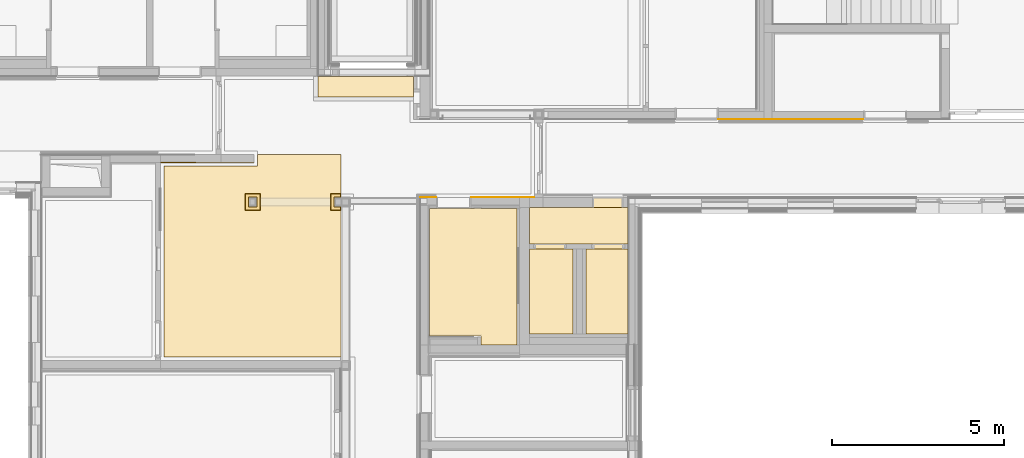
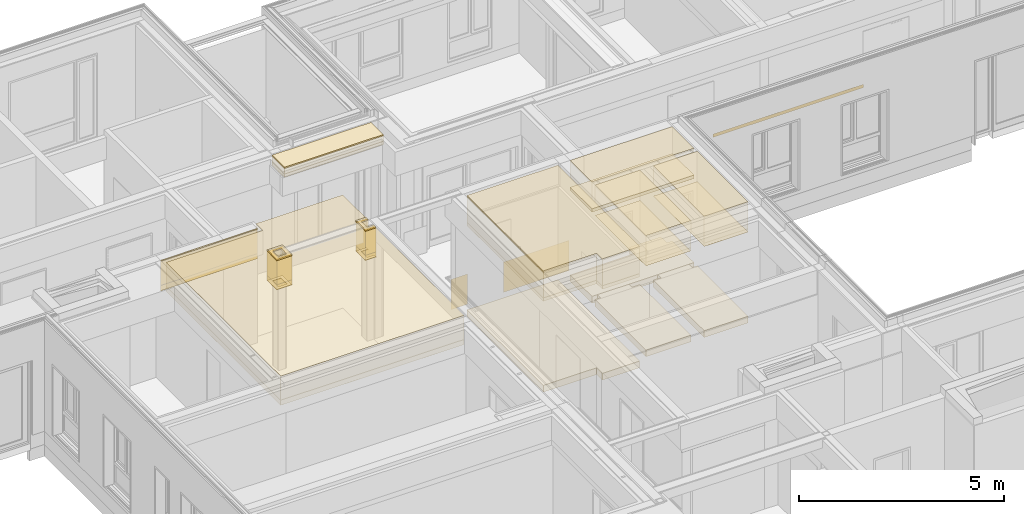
# One storey, part 171 of 207: 33 coverings.
"""IFC4 building model written with IfcOpenShell, lengths in metres."""

import ifcopenshell
import ifcopenshell.guid

model = None  # the IFC model being written
_history = None  # IfcOwnerHistory: only IFC2X3 demands one
_inside = {}  # id of a spatial element -> (the spatial element, [elements in it])
_under = {}  # id of a project, library or spatial element -> (it, [spatial elements below it])
_declared = {}  # id of a project -> (the project, [libraries it declares])
_typed = {}  # id of a type object -> (the type object, [elements of that type])
_made_of = {}  # id of a material, layer set ... -> (it, [elements and type objects made of it])


def new_model(schema):
    """Start an empty IFC model of exactly this schema.

    Asked for "IFC4X3", IfcOpenShell would pick the latest addendum, in which some entities
    have other attributes; the version numbers below select the first issue.
    IFC2X3 requires an IfcOwnerHistory on every rooted entity: one is made here for all.
    """
    global model, _history
    if schema == "IFC4X3":
        model = ifcopenshell.file(schema_version=(4, 3, 0, 0))
    else:
        model = ifcopenshell.file(schema=schema)
    _inside.clear()
    _under.clear()
    _declared.clear()
    _typed.clear()
    _made_of.clear()
    _history = None
    if model.schema == "IFC2X3":
        org = make("IfcOrganization", Name="unknown")
        user = make(
            "IfcPersonAndOrganization",
            ThePerson=make("IfcPerson", FamilyName="unknown"),
            TheOrganization=org,
        )
        app = make(
            "IfcApplication",
            ApplicationDeveloper=org,
            Version="unknown",
            ApplicationFullName="unknown",
            ApplicationIdentifier="unknown",
        )
        _history = make(
            "IfcOwnerHistory",
            OwningUser=user,
            OwningApplication=app,
            ChangeAction="ADDED",
            CreationDate=0,
        )
    return model


def make(cls, **values):
    """One entity of the class cls with the attributes given. An attribute that is None is left unset."""
    return model.create_entity(
        cls, **{name: value for name, value in values.items() if value is not None}
    )


def entity(cls, *values):
    """Any entity or typed value of the class cls, its attributes in the order of the schema. None: left unset."""
    e = model.create_entity(cls)
    for i, value in enumerate(values):
        if value is not None:
            e[i] = value
    return e


def rooted(cls, **values):
    """An entity with a GlobalId (a new one), such as an element, a storey or a relation."""
    return make(cls, GlobalId=ifcopenshell.guid.new(), OwnerHistory=_history, **values)


def si_unit(unit_type, name, prefix=None):
    """IfcSIUnit, for example si_unit("LENGTHUNIT", "METRE", prefix="MILLI")."""
    return make("IfcSIUnit", UnitType=unit_type, Prefix=prefix, Name=name)


def converted_unit(unit_type, name, factor, base, dimensions=None, offset=None):
    """IfcConversionBasedUnit, such as the inch: factor (a typed value) times the base unit."""
    return make(
        "IfcConversionBasedUnit"
        if offset is None
        else "IfcConversionBasedUnitWithOffset",
        ConversionOffset=offset,
        Dimensions=None
        if dimensions is None
        else entity("IfcDimensionalExponents", *dimensions),
        UnitType=unit_type,
        Name=name,
        ConversionFactor=make(
            "IfcMeasureWithUnit", ValueComponent=factor, UnitComponent=base
        ),
    )


def derived_unit(unit_type, elements):
    """IfcDerivedUnit: a product of units, each with its exponent."""
    return make(
        "IfcDerivedUnit",
        Elements=[
            make("IfcDerivedUnitElement", Unit=unit, Exponent=power)
            for unit, power in elements
        ],
        UnitType=unit_type,
    )


def assignment(units):
    """IfcUnitAssignment: the units of a project."""
    return None if units is None else make("IfcUnitAssignment", Units=units)


def point(xyz):
    """IfcCartesianPoint."""
    return None if xyz is None else make("IfcCartesianPoint", Coordinates=xyz)


def direction(xyz):
    """IfcDirection."""
    return None if xyz is None else make("IfcDirection", DirectionRatios=xyz)


def frame(location, z_axis=None, x_axis=None):
    """IfcAxis2Placement3D, a coordinate frame: its origin and axes. An axis left out is left unset."""
    return make(
        "IfcAxis2Placement3D",
        Location=point(location),
        Axis=direction(z_axis),
        RefDirection=direction(x_axis),
    )


def frame_2d(location, x_axis=None):
    """IfcAxis2Placement2D, a coordinate frame in the plane: its origin and x axis."""
    return make(
        "IfcAxis2Placement2D", Location=point(location), RefDirection=direction(x_axis)
    )


def origin():
    """The frame at (0, 0, 0) with its axes left unset."""
    return frame((0.0, 0.0, 0.0))


def origin_with_axes():
    """The frame at (0, 0, 0) with the z axis (0, 0, 1) and the x axis (1, 0, 0) written out."""
    return frame((0.0, 0.0, 0.0), z_axis=(0.0, 0.0, 1.0), x_axis=(1.0, 0.0, 0.0))


def place(relative_to, where):
    """IfcLocalPlacement: puts the frame where relative to a parent placement (None: the world)."""
    return make(
        "IfcLocalPlacement", PlacementRelTo=relative_to, RelativePlacement=where
    )


def context(
    kind, dimensions, precision=None, world=None, true_north=None, identifier=None
):
    """IfcGeometricRepresentationContext, for example the 3D "Model" context."""
    return make(
        "IfcGeometricRepresentationContext",
        ContextIdentifier=identifier,
        ContextType=kind,
        CoordinateSpaceDimension=dimensions,
        Precision=precision,
        WorldCoordinateSystem=world,
        TrueNorth=true_north,
    )


def subcontext(parent, identifier, kind, view, scale=None):
    """IfcGeometricRepresentationSubContext, for example "Body" below "Model"."""
    return make(
        "IfcGeometricRepresentationSubContext",
        ContextIdentifier=identifier,
        ContextType=kind,
        ParentContext=parent,
        TargetScale=scale,
        TargetView=view,
    )


def project(units=None, contexts=None):
    """IfcProject with its units and contexts."""
    return rooted(
        "IfcProject",
        Name="project",
        RepresentationContexts=contexts,
        UnitsInContext=assignment(units),
    )


def spatial(cls, under=None, at=None, **own):
    """A site, building, storey or space (cls), placed at a placement, below another one or the project."""
    s = rooted(cls, ObjectPlacement=at, **own)
    if under is not None:
        _under.setdefault(under.id(), (under, []))[1].append(s)
    return s


def polyline(points):
    """IfcPolyline through the points."""
    return make("IfcPolyline", Points=[point(p) for p in points])


def profile(cls, at=None, kind="AREA", **sizes):
    """A parametric profile (cls). Its sizes go by their IFC names, for example OverallWidth=200.0."""
    return make(cls, ProfileType=kind, Position=at, **sizes)


def rectangle(**sizes):
    """IfcRectangleProfileDef."""
    return profile("IfcRectangleProfileDef", **sizes)


def outline(outer, holes=None, kind="AREA"):
    """IfcArbitraryClosedProfileDef: a profile drawn as a closed curve; with holes, ...WithVoids."""
    if holes is None:
        return make("IfcArbitraryClosedProfileDef", ProfileType=kind, OuterCurve=outer)
    return make(
        "IfcArbitraryProfileDefWithVoids",
        ProfileType=kind,
        OuterCurve=outer,
        InnerCurves=holes,
    )


def extrude(swept, where, along, depth):
    """IfcExtrudedAreaSolid: the profile swept, set in the frame where, extruded along a direction by depth."""
    return make(
        "IfcExtrudedAreaSolid",
        SweptArea=swept,
        Position=where,
        ExtrudedDirection=direction(along),
        Depth=depth,
    )


def shape(context_of_items, identifier, shape_type, items):
    """IfcShapeRepresentation: the items that make up one representation, for example the "Body"."""
    return make(
        "IfcShapeRepresentation",
        ContextOfItems=context_of_items,
        RepresentationIdentifier=identifier,
        RepresentationType=shape_type,
        Items=items,
    )


def material(Name=None, Category=None):
    """IfcMaterial."""
    return make("IfcMaterial", Name=Name, Category=Category)


def layer(
    of_material, thickness, ventilated=None, Name=None, Category=None, Priority=None
):
    """IfcMaterialLayer: one layer of a wall or slab, of a material (None: an air gap)."""
    return make(
        "IfcMaterialLayer",
        Material=of_material,
        LayerThickness=thickness,
        IsVentilated=ventilated,
        Name=Name,
        Category=Category,
        Priority=Priority,
    )


def layer_set(layers, Name=None):
    """IfcMaterialLayerSet."""
    return make("IfcMaterialLayerSet", MaterialLayers=layers, LayerSetName=Name)


def layer_usage(for_layer_set, set_direction, sense, offset, extent=None):
    """IfcMaterialLayerSetUsage: how a layer set lies in its element."""
    return make(
        "IfcMaterialLayerSetUsage",
        ForLayerSet=for_layer_set,
        LayerSetDirection=set_direction,
        DirectionSense=sense,
        OffsetFromReferenceLine=offset,
        ReferenceExtent=extent,
    )


def made_of(thing, what):
    """Note that an element or type object is made of a material, layer set ...; save() writes the relation."""
    if what is not None:
        _made_of.setdefault(what.id(), (what, []))[1].append(thing)
    return thing


def element(
    cls,
    number,
    at=None,
    inside=None,
    cuts=None,
    type_object=None,
    material=None,
    context=None,
    identifier="Body",
    shape_type=None,
    held_by="IfcProductDefinitionShape",
    body=None,
    shapes=None,
    **own,
):
    """One element of the class cls, such as IfcWall. Its Tag is "e" and its number.

    at: its placement. inside: the storey or other place that contains it. cuts: it is an
    opening in that element (IfcRelVoidsElement). A single representation is given by context,
    identifier, shape_type and body (its items); several are given by shapes. held_by: the class
    of the entity that holds the representations. save() writes the other relations.
    """
    e = rooted(cls, Tag="e%d" % number, ObjectPlacement=at, **own)
    if body is not None:
        shapes = [shape(context, identifier, shape_type, body)]
    if shapes is not None:
        e.Representation = make(held_by, Representations=shapes)
    if inside is not None:
        _inside.setdefault(inside.id(), (inside, []))[1].append(e)
    if cuts is not None:
        rooted(
            "IfcRelVoidsElement", RelatingBuildingElement=cuts, RelatedOpeningElement=e
        )
    if type_object is not None:
        _typed.setdefault(type_object.id(), (type_object, []))[1].append(e)
    return made_of(e, material)


def aggregate(whole, parts):
    """IfcRelAggregates: a whole, such as a stair, and the parts it consists of."""
    return rooted("IfcRelAggregates", RelatingObject=whole, RelatedObjects=parts)


def save(model, path):
    """Write the relations noted so far, then the file.

    IfcRelAggregates (storeys below a building ...), IfcRelContainedInSpatialStructure (elements
    in a storey), IfcRelDefinesByType, IfcRelAssociatesMaterial and IfcRelDeclares: one each for
    every whole, place, type object, material and project.
    """
    for whole, parts in _under.values():
        aggregate(whole, parts)
    for where, things in _inside.values():
        rooted(
            "IfcRelContainedInSpatialStructure",
            RelatedElements=things,
            RelatingStructure=where,
        )
    for kind, things in _typed.values():
        rooted("IfcRelDefinesByType", RelatedObjects=things, RelatingType=kind)
    for what, things in _made_of.values():
        rooted("IfcRelAssociatesMaterial", RelatedObjects=things, RelatingMaterial=what)
    for by, libraries in _declared.values():
        rooted("IfcRelDeclares", RelatingContext=by, RelatedDefinitions=libraries)
    model.write(path)


model = new_model("IFC4")

# Units and contexts
model_context = context("Model", 3, precision=1e-05, world=origin())
body_context = subcontext(model_context, "Body", "Model", "MODEL_VIEW")
ifc_project = project(units=[si_unit("LENGTHUNIT", "METRE"), si_unit("AREAUNIT", "SQUARE_METRE"), si_unit("VOLUMEUNIT", "CUBIC_METRE"), si_unit("MASSUNIT", "GRAM", prefix="KILO"), converted_unit("PLANEANGLEUNIT", "DEGREE", entity("IfcPlaneAngleMeasure", 0.0174532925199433), si_unit("PLANEANGLEUNIT", "RADIAN"), dimensions=[0, 0, 0, 0, 0, 0, 0]), derived_unit("THERMALTRANSMITTANCEUNIT", [(si_unit("POWERUNIT", "WATT"), 1), (si_unit("THERMODYNAMICTEMPERATUREUNIT", "KELVIN"), -1), (si_unit("LENGTHUNIT", "METRE"), -2)]), derived_unit("VOLUMETRICFLOWRATEUNIT", [(si_unit("LENGTHUNIT", "METRE"), 3), (converted_unit("TIMEUNIT", "hour", entity("IfcTimeMeasure", 3600.0), si_unit("TIMEUNIT", "SECOND"), dimensions=[0, 0, 1, 0, 0, 0, 0]), -1), (si_unit("LENGTHUNIT", "METRE"), -1)])], contexts=[model_context])

# Site, building, storey, space
site_placement = place(None, origin())
site = spatial("IfcSite", under=ifc_project, at=site_placement, Name="Psychiatrie Neubau Wunstorf", CompositionType="ELEMENT")
building_placement = place(site_placement, origin())
building = spatial("IfcBuilding", under=site, at=building_placement, Name="Neubau H2 Stationsgebäude", CompositionType="ELEMENT")
storey_placement = place(building_placement, frame((0.0, 0.0, -0.2)))
storey = spatial("IfcBuildingStorey", under=building, at=storey_placement, Name="H2 Ebene 0", CompositionType="ELEMENT", Elevation=-0.2)
space_1_placement = place(storey_placement, frame((41.4405, 20.5859970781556, 0.0)))
space_1 = spatial("IfcSpace", under=storey, at=space_1_placement, Name="WUN-H2-E00-F08", CompositionType="ELEMENT")

# Covering
ifc_material_1 = material(Name="97")
ifc_layer_1 = layer(ifc_material_1, 0.001)
ifc_layer_set_1 = layer_set([ifc_layer_1])
ifc_layer_usage_1 = layer_usage(ifc_layer_set_1, "AXIS3", "POSITIVE", 0.0)
covering_1_placement = place(space_1_placement, frame((5.12450000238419, 2.27800291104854, 0.8)))
element("IfcCovering", 1, at=covering_1_placement, inside=space_1, material=ifc_layer_usage_1, Name="Handlauf", PredefinedType="CLADDING", context=body_context, shape_type="SweptSolid", body=[
    extrude(rectangle(XDim=4.22499999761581, YDim=0.1, at=frame_2d((-2.11249999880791, 0.05), x_axis=(-1.0, 0.0))), frame((0.0, 0.0, 0.1), z_axis=(-7.61630022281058e-10, -1.0, 0.0), x_axis=(-1.0, 7.61630022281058e-10, 0.0)), (0.0, 0.0, 1.0), 0.001),
])

# Space
space_2_placement = place(storey_placement, frame((32.083, 0.549, 0.0)))
space_2 = spatial("IfcSpace", under=storey, at=space_2_placement, Name="WUN-H2-E00-F03", CompositionType="ELEMENT")

# Coverings
ifc_material_2 = material(Name="84")
ifc_layer_2 = layer(ifc_material_2, 0.001)
ifc_layer_set_2 = layer_set([ifc_layer_2])
ifc_layer_usage_2 = layer_usage(ifc_layer_set_2, "AXIS3", "POSITIVE", 0.0)
covering_2_placement = place(space_2_placement, frame((5.79949999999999, 20.0369980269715, 0.1)))
element("IfcCovering", 2, at=covering_2_placement, inside=space_2, material=ifc_layer_usage_2, Name="Acrobyn", PredefinedType="CLADDING", context=body_context, shape_type="SweptSolid", body=[
    extrude(rectangle(XDim=1.84799999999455, YDim=0.9, at=frame_2d((-0.923999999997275, 0.45), x_axis=(-1.0, 0.0))), frame((3.325500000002, 0.0, 0.9), z_axis=(-4.98056622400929e-13, 1.0, 0.0), x_axis=(1.0, 4.98056622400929e-13, 0.0)), (0.0, 0.0, 1.0), 0.001),
    extrude(rectangle(XDim=0.9, YDim=0.467500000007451, at=frame_2d((-0.233750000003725, -0.45), x_axis=(0.0, -1.0))), frame((0.467500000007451, 0.0, 0.0), z_axis=(-4.98033462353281e-13, 1.0, 0.0), x_axis=(1.0, 4.98033462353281e-13, 0.0)), (0.0, 0.0, 1.0), 0.001),
])
ifc_material_3 = material()
ifc_layer_3 = layer(ifc_material_3, 0.036)
ifc_layer_set_3 = layer_set([ifc_layer_3])
ifc_layer_usage_3 = layer_usage(ifc_layer_set_3, "AXIS3", "POSITIVE", 0.0)
covering_3_placement = place(space_2_placement, frame((2.81699999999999, 22.966, 3.6)))
element("IfcCovering", 3, at=covering_3_placement, inside=space_2, material=ifc_layer_usage_3, Name="Gipsfaserplatten 2-lagig (BSK)", PredefinedType="CEILING", context=body_context, shape_type="SweptSolid", body=[
    extrude(rectangle(XDim=2.779, YDim=0.5990036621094, at=frame_2d((-1.3895, -0.2995018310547), x_axis=(-1.0, 0.0))), frame((2.779, 0.0, 0.0), z_axis=(0.0, 0.0, -1.0), x_axis=(1.0, 0.0, 0.0)), (0.0, 0.0, 1.0), 0.036),
])
ifc_material_4 = material(Name="Installationshöhe")
ifc_layer_4 = layer(ifc_material_4, 0.164)
ifc_layer_set_4 = layer_set([ifc_layer_4])
ifc_layer_usage_4 = layer_usage(ifc_layer_set_4, "AXIS3", "POSITIVE", 0.0)
covering_4_placement = place(space_2_placement, frame((2.81699999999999, 22.966, 3.564)))
element("IfcCovering", 4, at=covering_4_placement, inside=space_2, material=ifc_layer_usage_4, Name="Gipsfaserplatten 2-lagig (BSK)", PredefinedType="CEILING", context=body_context, shape_type="SweptSolid", body=[
    extrude(rectangle(XDim=2.779, YDim=0.5990036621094, at=frame_2d((-1.3895, -0.2995018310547), x_axis=(-1.0, 0.0))), frame((2.779, 0.0, 0.0), z_axis=(0.0, 0.0, -1.0), x_axis=(1.0, 0.0, 0.0)), (0.0, 0.0, 1.0), 0.164),
])
ifc_material_5 = material(Name="A1")
ifc_layer_5 = layer(ifc_material_5, 0.1)
ifc_layer_set_5 = layer_set([ifc_layer_5])
ifc_layer_usage_5 = layer_usage(ifc_layer_set_5, "AXIS3", "POSITIVE", 0.0)
covering_5_placement = place(space_2_placement, frame((2.81699999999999, 22.966, 3.4)))
element("IfcCovering", 5, at=covering_5_placement, inside=space_2, material=ifc_layer_usage_5, Name="Gipsfaserplatten 2-lagig (BSK)", PredefinedType="CEILING", context=body_context, shape_type="SweptSolid", body=[
    extrude(rectangle(XDim=2.779, YDim=0.5990036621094, at=frame_2d((-1.3895, -0.2995018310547), x_axis=(-1.0, 0.0))), frame((2.779, 0.0, 0.0), z_axis=(0.0, 0.0, -1.0), x_axis=(1.0, 0.0, 0.0)), (0.0, 0.0, 1.0), 0.1),
])
ifc_material_6 = material(Name="D1")
ifc_layer_6 = layer(ifc_material_6, 0.001)
ifc_layer_set_6 = layer_set([ifc_layer_6])
ifc_layer_usage_6 = layer_usage(ifc_layer_set_6, "AXIS3", "POSITIVE", 0.0)
covering_6_placement = place(space_2_placement, frame((2.81699999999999, 22.966, 3.3)))
element("IfcCovering", 6, at=covering_6_placement, inside=space_2, material=ifc_layer_usage_6, Name="Gipsfaserplatten 2-lagig (BSK)", PredefinedType="CEILING", context=body_context, shape_type="SweptSolid", body=[
    extrude(rectangle(XDim=2.779, YDim=0.5990036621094, at=frame_2d((-1.3895, -0.2995018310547), x_axis=(-1.0, 0.0))), frame((2.779, 0.0, 0.0), z_axis=(0.0, 0.0, -1.0), x_axis=(1.0, 0.0, 0.0)), (0.0, 0.0, 1.0), 0.001),
])

# Space
space_3_placement = place(storey_placement, frame((30.3168490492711, 15.8324990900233, 0.0)))
space_3 = spatial("IfcSpace", under=storey, at=space_3_placement, Name="WUN-H2-E00-F03a", CompositionType="ELEMENT")

# Coverings
ifc_material_7 = material()
ifc_layer_7 = layer(ifc_material_7, 0.036)
ifc_layer_set_7 = layer_set([ifc_layer_7])
ifc_layer_usage_7 = layer_usage(ifc_layer_set_7, "AXIS3", "POSITIVE", 0.0)
covering_7_placement = place(space_3_placement, frame((0.0, 4.38748945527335, 3.6)))
element("IfcCovering", 7, at=covering_7_placement, inside=space_3, material=ifc_layer_usage_7, Name="Gipsfaserplatten 2-lagig (BSK)", PredefinedType="CEILING", context=body_context, shape_type="SweptSolid", body=[
    extrude(outline(polyline([(0.432000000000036, 0.471998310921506), (0.0, 0.471998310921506), (0.0, 0.0), (0.432000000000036, 0.0), (0.432000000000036, 0.471998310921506)]), holes=[polyline([(0.1, 0.0999983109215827), (0.1, 0.371998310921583), (0.332000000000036, 0.371998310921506), (0.332000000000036, 0.0999983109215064), (0.1, 0.0999983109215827)])]), frame((2.46614655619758, 0.471998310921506, 0.0), z_axis=(0.0, 0.0, -1.0), x_axis=(1.0, 0.0, 0.0)), (0.0, 0.0, 1.0), 0.036),
    extrude(outline(polyline([(0.0, 0.0), (0.296000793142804, 0.0), (0.296000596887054, 0.100000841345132), (0.100000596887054, 0.100000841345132), (0.100000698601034, 0.37199959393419), (0.296003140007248, 0.372001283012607), (0.296003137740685, 0.47199959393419), (6.98601033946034e-07, 0.47199959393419), (0.0, 0.0)])), frame((4.95714791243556, 0.472009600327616, 0.0), z_axis=(0.0, 0.0, -1.0), x_axis=(1.0, 0.0, 0.0)), (0.0, 0.0, 1.0), 0.036),
    extrude(outline(polyline([(0.0, 0.0015), (0.0, 0.0), (2.71615095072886, 0.00149999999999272), (0.0, 0.0015)])), frame((0.0, 1.38551145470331, 0.0), z_axis=(0.0, 0.0, -1.0), x_axis=(1.0, 0.0, 0.0)), (0.0, 0.0, 1.0), 0.036),
])
ifc_material_8 = material(Name="Installationshöhe")
ifc_layer_8 = layer(ifc_material_8, 0.714)
ifc_layer_set_8 = layer_set([ifc_layer_8])
ifc_layer_usage_8 = layer_usage(ifc_layer_set_8, "AXIS3", "POSITIVE", 0.0)
covering_8_placement = place(space_3_placement, frame((0.0, 4.38748945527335, 3.564)))
element("IfcCovering", 8, at=covering_8_placement, inside=space_3, material=ifc_layer_usage_8, Name="Gipsfaserplatten 2-lagig (BSK)", PredefinedType="CEILING", context=body_context, shape_type="SweptSolid", body=[
    extrude(outline(polyline([(0.432000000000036, 0.471998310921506), (0.0, 0.471998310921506), (0.0, 0.0), (0.432000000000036, 0.0), (0.432000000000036, 0.471998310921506)]), holes=[polyline([(0.1, 0.0999983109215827), (0.1, 0.371998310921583), (0.332000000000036, 0.371998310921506), (0.332000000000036, 0.0999983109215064), (0.1, 0.0999983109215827)])]), frame((2.46614655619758, 0.471998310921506, 0.0), z_axis=(0.0, 0.0, -1.0), x_axis=(1.0, 0.0, 0.0)), (0.0, 0.0, 1.0), 0.714),
    extrude(outline(polyline([(0.0, 0.0), (0.296000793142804, 0.0), (0.296000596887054, 0.100000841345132), (0.100000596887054, 0.100000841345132), (0.100000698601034, 0.37199959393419), (0.296003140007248, 0.372001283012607), (0.296003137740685, 0.47199959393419), (6.98601033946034e-07, 0.47199959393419), (0.0, 0.0)])), frame((4.95714791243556, 0.472009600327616, 0.0), z_axis=(0.0, 0.0, -1.0), x_axis=(1.0, 0.0, 0.0)), (0.0, 0.0, 1.0), 0.714),
    extrude(outline(polyline([(0.0, 0.0015), (0.0, 0.0), (2.71615095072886, 0.00149999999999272), (0.0, 0.0015)])), frame((0.0, 1.38551145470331, 0.0), z_axis=(0.0, 0.0, -1.0), x_axis=(1.0, 0.0, 0.0)), (0.0, 0.0, 1.0), 0.714),
])
ifc_material_9 = material(Name="A1")
ifc_layer_9 = layer(ifc_material_9, 0.15)
ifc_layer_set_9 = layer_set([ifc_layer_9])
ifc_layer_usage_9 = layer_usage(ifc_layer_set_9, "AXIS3", "POSITIVE", 0.0)
covering_9_placement = place(space_3_placement, frame((0.0, 4.38748945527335, 2.85)))
element("IfcCovering", 9, at=covering_9_placement, inside=space_3, material=ifc_layer_usage_9, Name="Gipsfaserplatten 2-lagig (BSK)", PredefinedType="CEILING", context=body_context, shape_type="SweptSolid", body=[
    extrude(outline(polyline([(0.432000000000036, 0.471998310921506), (0.0, 0.471998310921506), (0.0, 0.0), (0.432000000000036, 0.0), (0.432000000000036, 0.471998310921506)]), holes=[polyline([(0.1, 0.0999983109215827), (0.1, 0.371998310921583), (0.332000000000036, 0.371998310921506), (0.332000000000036, 0.0999983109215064), (0.1, 0.0999983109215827)])]), frame((2.46614655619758, 0.471998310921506, 0.0), z_axis=(0.0, 0.0, -1.0), x_axis=(1.0, 0.0, 0.0)), (0.0, 0.0, 1.0), 0.15),
    extrude(outline(polyline([(0.0, 0.0), (0.296000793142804, 0.0), (0.296000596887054, 0.100000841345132), (0.100000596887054, 0.100000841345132), (0.100000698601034, 0.37199959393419), (0.296003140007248, 0.372001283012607), (0.296003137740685, 0.47199959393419), (6.98601033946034e-07, 0.47199959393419), (0.0, 0.0)])), frame((4.95714791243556, 0.472009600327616, 0.0), z_axis=(0.0, 0.0, -1.0), x_axis=(1.0, 0.0, 0.0)), (0.0, 0.0, 1.0), 0.15),
    extrude(outline(polyline([(0.0, 0.0015), (0.0, 0.0), (2.71615095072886, 0.00149999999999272), (0.0, 0.0015)])), frame((0.0, 1.38551145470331, 0.0), z_axis=(0.0, 0.0, -1.0), x_axis=(1.0, 0.0, 0.0)), (0.0, 0.0, 1.0), 0.15),
])
ifc_material_10 = material(Name="D1")
ifc_layer_10 = layer(ifc_material_10, 0.001)
ifc_layer_set_10 = layer_set([ifc_layer_10])
ifc_layer_usage_10 = layer_usage(ifc_layer_set_10, "AXIS3", "POSITIVE", 0.0)
covering_10_placement = place(space_3_placement, frame((0.0, 4.38748945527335, 2.7)))
element("IfcCovering", 10, at=covering_10_placement, inside=space_3, material=ifc_layer_usage_10, Name="Gipsfaserplatten 2-lagig (BSK)", PredefinedType="CEILING", context=body_context, shape_type="SweptSolid", body=[
    extrude(outline(polyline([(0.432000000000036, 0.471998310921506), (0.0, 0.471998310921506), (0.0, 0.0), (0.432000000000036, 0.0), (0.432000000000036, 0.471998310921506)]), holes=[polyline([(0.1, 0.0999983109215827), (0.1, 0.371998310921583), (0.332000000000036, 0.371998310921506), (0.332000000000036, 0.0999983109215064), (0.1, 0.0999983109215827)])]), frame((2.46614655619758, 0.471998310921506, 0.0), z_axis=(0.0, 0.0, -1.0), x_axis=(1.0, 0.0, 0.0)), (0.0, 0.0, 1.0), 0.001),
    extrude(outline(polyline([(0.0, 0.0), (0.296000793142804, 0.0), (0.296000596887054, 0.100000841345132), (0.100000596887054, 0.100000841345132), (0.100000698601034, 0.37199959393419), (0.296003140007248, 0.372001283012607), (0.296003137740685, 0.47199959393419), (6.98601033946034e-07, 0.47199959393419), (0.0, 0.0)])), frame((4.95714791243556, 0.472009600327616, 0.0), z_axis=(0.0, 0.0, -1.0), x_axis=(1.0, 0.0, 0.0)), (0.0, 0.0, 1.0), 0.001),
    extrude(outline(polyline([(0.0, 0.0015), (0.0, 0.0), (2.71615095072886, 0.00149999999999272), (0.0, 0.0015)])), frame((0.0, 1.38551145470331, 0.0), z_axis=(0.0, 0.0, -1.0), x_axis=(1.0, 0.0, 0.0)), (0.0, 0.0, 1.0), 0.001),
])
ifc_material_11 = material(Name="Installationshöhe")
ifc_layer_11 = layer(ifc_material_11, 0.714)
ifc_layer_set_11 = layer_set([ifc_layer_11])
ifc_layer_usage_11 = layer_usage(ifc_layer_set_11, "AXIS3", "POSITIVE", 0.0)
covering_11_placement = place(space_3_placement, frame((0.0999999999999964, 0.100000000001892, 3.564)))
element("IfcCovering", 11, at=covering_11_placement, inside=space_3, material=ifc_layer_usage_11, Name="Gipsfaserplatten 2-lagig (BSK)", PredefinedType="CEILING", context=body_context, shape_type="SweptSolid", body=[
    extrude(outline(polyline([(5.15315105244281, 1.61600144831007), (5.15315095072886, 5.90350090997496), (0.0, 5.90350090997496), (0.0, 0.330016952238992), (2.71615095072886, 0.330016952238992), (2.71615095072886, 0.0), (5.15315095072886, 0.0), (5.15315035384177, 1.14400185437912), (4.85714791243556, 1.14400185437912), (4.8571486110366, 1.61600144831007), (5.15315105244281, 1.61600144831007)]), holes=[polyline([(2.36614655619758, 1.6160114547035), (2.79814655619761, 1.6160114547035), (2.79814655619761, 1.14401314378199), (2.36614655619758, 1.14401314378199), (2.36614655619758, 1.6160114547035)])]), frame((0.0, 5.90350090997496, 0.0), z_axis=(0.0, 0.0, -1.0), x_axis=(1.0, 0.0, 0.0)), (0.0, 0.0, 1.0), 0.714),
])
ifc_material_12 = material(Name="Aa")
ifc_layer_12 = layer(ifc_material_12, 0.15)
ifc_layer_set_12 = layer_set([ifc_layer_12])
ifc_layer_usage_12 = layer_usage(ifc_layer_set_12, "AXIS3", "POSITIVE", 0.0)
covering_12_placement = place(space_3_placement, frame((0.0999999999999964, 0.100000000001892, 2.85)))
element("IfcCovering", 12, at=covering_12_placement, inside=space_3, material=ifc_layer_usage_12, Name="Gipsfaserplatten 2-lagig (BSK)", PredefinedType="CEILING", context=body_context, shape_type="SweptSolid", body=[
    extrude(outline(polyline([(5.15315105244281, 1.61600144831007), (5.15315095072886, 5.90350090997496), (0.0, 5.90350090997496), (0.0, 0.330016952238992), (2.71615095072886, 0.330016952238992), (2.71615095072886, 0.0), (5.15315095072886, 0.0), (5.15315035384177, 1.14400185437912), (4.85714791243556, 1.14400185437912), (4.8571486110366, 1.61600144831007), (5.15315105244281, 1.61600144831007)]), holes=[polyline([(2.36614655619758, 1.6160114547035), (2.79814655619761, 1.6160114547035), (2.79814655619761, 1.14401314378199), (2.36614655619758, 1.14401314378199), (2.36614655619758, 1.6160114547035)])]), frame((0.0, 5.90350090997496, 0.0), z_axis=(0.0, 0.0, -1.0), x_axis=(1.0, 0.0, 0.0)), (0.0, 0.0, 1.0), 0.15),
])
ifc_material_13 = material(Name="D1")
ifc_layer_13 = layer(ifc_material_13, 0.001)
ifc_layer_set_13 = layer_set([ifc_layer_13])
ifc_layer_usage_13 = layer_usage(ifc_layer_set_13, "AXIS3", "POSITIVE", 0.0)
covering_13_placement = place(space_3_placement, frame((0.0999999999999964, 0.100000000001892, 2.7)))
element("IfcCovering", 13, at=covering_13_placement, inside=space_3, material=ifc_layer_usage_13, Name="Gipsfaserplatten 2-lagig (BSK)", PredefinedType="CEILING", context=body_context, shape_type="SweptSolid", body=[
    extrude(outline(polyline([(5.15315105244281, 1.61600144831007), (5.15315095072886, 5.90350090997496), (0.0, 5.90350090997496), (0.0, 0.330016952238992), (2.71615095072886, 0.330016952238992), (2.71615095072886, 0.0), (5.15315095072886, 0.0), (5.15315035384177, 1.14400185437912), (4.85714791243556, 1.14400185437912), (4.8571486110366, 1.61600144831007), (5.15315105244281, 1.61600144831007)]), holes=[polyline([(2.36614655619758, 1.6160114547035), (2.79814655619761, 1.6160114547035), (2.79814655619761, 1.14401314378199), (2.36614655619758, 1.14401314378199), (2.36614655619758, 1.6160114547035)])]), frame((0.0, 5.90350090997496, 0.0), z_axis=(0.0, 0.0, -1.0), x_axis=(1.0, 0.0, 0.0)), (0.0, 0.0, 1.0), 0.001),
])

# Space
space_4_placement = place(storey_placement, frame((38.154, 16.2820060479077, 0.0)))
space_4 = spatial("IfcSpace", under=storey, at=space_4_placement, Name="WUN-H2-E00-009", CompositionType="ELEMENT")

# Coverings
ifc_material_14 = material(Name="Ku1")
ifc_layer_14 = layer(ifc_material_14, 0.2)
ifc_layer_set_14 = layer_set([ifc_layer_14])
ifc_layer_usage_14 = layer_usage(ifc_layer_set_14, "AXIS3", "POSITIVE", 0.0)
covering_14_placement = place(space_4_placement, origin())
element("IfcCovering", 14, at=covering_14_placement, inside=space_4, material=ifc_layer_usage_14, Name="PVC Bahnenware Holzoptik", PredefinedType="FLOORING", context=body_context, shape_type="SweptSolid", body=[
    extrude(outline(polyline([(1.5, 0.0), (2.55000000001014, 0.0), (2.55000000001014, 3.98249197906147), (0.0, 3.98249197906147), (0.0, 0.275), (1.5, 0.275), (1.5, 0.0)])), origin_with_axes(), (0.0, 0.0, 1.0), 0.2),
])
ifc_material_15 = material()
ifc_layer_15 = layer(ifc_material_15, 0.036)
ifc_layer_set_15 = layer_set([ifc_layer_15])
ifc_layer_usage_15 = layer_usage(ifc_layer_set_15, "AXIS3", "POSITIVE", 0.0)
covering_15_placement = place(space_4_placement, frame((0.0, 0.0, 3.6)))
element("IfcCovering", 15, at=covering_15_placement, inside=space_4, material=ifc_layer_usage_15, Name="Gipsfaserplatten 2-lagig (BSK)", PredefinedType="CEILING", context=body_context, shape_type="SweptSolid", body=[
    extrude(outline(polyline([(2.55000000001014, 3.98249197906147), (1.5, 3.98249197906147), (1.5, 3.70749197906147), (0.0, 3.70749197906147), (0.0, 0.0), (2.55000000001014, 0.0), (2.55000000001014, 3.98249197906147)])), frame((0.0, 3.98249197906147, 0.0), z_axis=(0.0, 0.0, -1.0), x_axis=(1.0, 0.0, 0.0)), (0.0, 0.0, 1.0), 0.036),
])
ifc_material_16 = material(Name="Installationshöhe")
ifc_layer_16 = layer(ifc_material_16, 0.764)
ifc_layer_set_16 = layer_set([ifc_layer_16])
ifc_layer_usage_16 = layer_usage(ifc_layer_set_16, "AXIS3", "POSITIVE", 0.0)
covering_16_placement = place(space_4_placement, frame((0.0, 0.0, 3.564)))
element("IfcCovering", 16, at=covering_16_placement, inside=space_4, material=ifc_layer_usage_16, Name="Gipsfaserplatten 2-lagig (BSK)", PredefinedType="CEILING", context=body_context, shape_type="SweptSolid", body=[
    extrude(outline(polyline([(2.55000000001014, 3.98249197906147), (1.5, 3.98249197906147), (1.5, 3.70749197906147), (0.0, 3.70749197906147), (0.0, 0.0), (2.55000000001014, 0.0), (2.55000000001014, 3.98249197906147)])), frame((0.0, 3.98249197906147, 0.0), z_axis=(0.0, 0.0, -1.0), x_axis=(1.0, 0.0, 0.0)), (0.0, 0.0, 1.0), 0.764),
])
ifc_material_17 = material(Name="H7a")
ifc_layer_17 = layer(ifc_material_17, 0.1)
ifc_layer_set_17 = layer_set([ifc_layer_17])
ifc_layer_usage_17 = layer_usage(ifc_layer_set_17, "AXIS3", "POSITIVE", 0.0)
covering_17_placement = place(space_4_placement, frame((0.0, 0.0, 2.8)))
element("IfcCovering", 17, at=covering_17_placement, inside=space_4, material=ifc_layer_usage_17, Name="Kühldecke glatt", PredefinedType="CEILING", context=body_context, shape_type="SweptSolid", body=[
    extrude(outline(polyline([(2.55000000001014, 3.98249197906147), (1.5, 3.98249197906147), (1.5, 3.70749197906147), (0.0, 3.70749197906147), (0.0, 0.0), (2.55000000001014, 0.0), (2.55000000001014, 3.98249197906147)])), frame((0.0, 3.98249197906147, 0.0), z_axis=(0.0, 0.0, -1.0), x_axis=(1.0, 0.0, 0.0)), (0.0, 0.0, 1.0), 0.1),
])
ifc_material_18 = material(Name="D1")
ifc_layer_18 = layer(ifc_material_18, 0.001)
ifc_layer_set_18 = layer_set([ifc_layer_18])
ifc_layer_usage_18 = layer_usage(ifc_layer_set_18, "AXIS3", "POSITIVE", 0.0)
covering_18_placement = place(space_4_placement, frame((0.0, 0.0, 2.7)))
element("IfcCovering", 18, at=covering_18_placement, inside=space_4, material=ifc_layer_usage_18, Name="Gipsfaserplatten 2-lagig (BSK)", PredefinedType="CEILING", context=body_context, shape_type="SweptSolid", body=[
    extrude(outline(polyline([(2.55000000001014, 3.98249197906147), (1.5, 3.98249197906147), (1.5, 3.70749197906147), (0.0, 3.70749197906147), (0.0, 0.0), (2.55000000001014, 0.0), (2.55000000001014, 3.98249197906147)])), frame((0.0, 3.98249197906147, 0.0), z_axis=(0.0, 0.0, -1.0), x_axis=(1.0, 0.0, 0.0)), (0.0, 0.0, 1.0), 0.001),
])

# Space
space_5_placement = place(storey_placement, frame((41.0690000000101, 16.6105060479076, 0.0)))
space_5 = spatial("IfcSpace", under=storey, at=space_5_placement, Name="WUN-H2-E00-052b", CompositionType="ELEMENT")

# Coverings
ifc_material_19 = material(Name="Fl1")
ifc_layer_19 = layer(ifc_material_19, 0.2)
ifc_layer_set_19 = layer_set([ifc_layer_19])
ifc_layer_usage_19 = layer_usage(ifc_layer_set_19, "AXIS3", "POSITIVE", 0.0)
covering_19_placement = place(space_5_placement, origin())
element("IfcCovering", 19, at=covering_19_placement, inside=space_5, material=ifc_layer_usage_19, Name="Fliesen", PredefinedType="FLOORING", context=body_context, shape_type="SweptSolid", body=[
    extrude(rectangle(XDim=0.15, YDim=0.885, at=frame_2d((0.4425, -0.075), x_axis=(0.0, -1.0))), frame((0.149999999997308, 2.62450000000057, 0.0), z_axis=(0.0, 0.0, 1.0), x_axis=(1.0, 0.0, 0.0)), (0.0, 0.0, 1.0), 0.2),
    extrude(rectangle(XDim=1.26349999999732, YDim=2.47450000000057, at=frame_2d((-0.631749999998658, -1.23725000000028), x_axis=(-1.0, 0.0))), frame((1.26349999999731, 2.47450000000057, 0.0), z_axis=(0.0, 0.0, 1.0), x_axis=(1.0, 0.0, 0.0)), (0.0, 0.0, 1.0), 0.2),
])
ifc_material_20 = material()
ifc_layer_20 = layer(ifc_material_20, 0.036)
ifc_layer_set_20 = layer_set([ifc_layer_20])
ifc_layer_usage_20 = layer_usage(ifc_layer_set_20, "AXIS3", "POSITIVE", 0.0)
covering_20_placement = place(space_5_placement, frame((0.0, 0.0, 3.6)))
element("IfcCovering", 20, at=covering_20_placement, inside=space_5, material=ifc_layer_usage_20, Name="Gipsfaserplatten 2-lagig (BSK)", PredefinedType="CEILING", context=body_context, shape_type="SweptSolid", body=[
    extrude(rectangle(XDim=1.26349999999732, YDim=2.47450000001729, at=frame_2d((0.631754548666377, 1.23725000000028), x_axis=(1.0, 0.0))), frame((0.0, 2.47450000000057, 0.0), z_axis=(0.0, 0.0, -1.0), x_axis=(1.0, 0.0, 0.0)), (0.0, 0.0, 1.0), 0.036),
])
ifc_material_21 = material(Name="Installationshöhe")
ifc_layer_21 = layer(ifc_material_21, 0.764)
ifc_layer_set_21 = layer_set([ifc_layer_21])
ifc_layer_usage_21 = layer_usage(ifc_layer_set_21, "AXIS3", "POSITIVE", 0.0)
covering_21_placement = place(space_5_placement, frame((0.0, 0.0, 3.564)))
element("IfcCovering", 21, at=covering_21_placement, inside=space_5, material=ifc_layer_usage_21, PredefinedType="CEILING", context=body_context, shape_type="SweptSolid", body=[
    extrude(rectangle(XDim=1.26349999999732, YDim=2.47450000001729, at=frame_2d((0.631754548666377, 1.23725000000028), x_axis=(1.0, 0.0))), frame((0.0, 2.47450000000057, 0.0), z_axis=(0.0, 0.0, -1.0), x_axis=(1.0, 0.0, 0.0)), (0.0, 0.0, 1.0), 0.764),
])
ifc_material_22 = material(Name="B")
ifc_layer_22 = layer(ifc_material_22, 0.1)
ifc_layer_set_22 = layer_set([ifc_layer_22])
ifc_layer_usage_22 = layer_usage(ifc_layer_set_22, "AXIS3", "POSITIVE", 0.0)
covering_22_placement = place(space_5_placement, frame((0.0, 0.0, 2.8)))
element("IfcCovering", 22, at=covering_22_placement, inside=space_5, material=ifc_layer_usage_22, Name="Gipskarton, imprägniert", PredefinedType="CEILING", context=body_context, shape_type="SweptSolid", body=[
    extrude(rectangle(XDim=1.26349999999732, YDim=2.47450000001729, at=frame_2d((0.631754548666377, 1.23725000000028), x_axis=(1.0, 0.0))), frame((0.0, 2.47450000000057, 0.0), z_axis=(0.0, 0.0, -1.0), x_axis=(1.0, 0.0, 0.0)), (0.0, 0.0, 1.0), 0.1),
])
ifc_material_23 = material(Name="D1")
ifc_layer_23 = layer(ifc_material_23, 0.001)
ifc_layer_set_23 = layer_set([ifc_layer_23])
ifc_layer_usage_23 = layer_usage(ifc_layer_set_23, "AXIS3", "POSITIVE", 0.0)
covering_23_placement = place(space_5_placement, frame((0.0, 0.0, 2.7)))
element("IfcCovering", 23, at=covering_23_placement, inside=space_5, material=ifc_layer_usage_23, PredefinedType="CEILING", context=body_context, shape_type="SweptSolid", body=[
    extrude(rectangle(XDim=1.26349999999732, YDim=2.47450000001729, at=frame_2d((0.631754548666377, 1.23725000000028), x_axis=(1.0, 0.0))), frame((0.0, 2.47450000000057, 0.0), z_axis=(0.0, 0.0, -1.0), x_axis=(1.0, 0.0, 0.0)), (0.0, 0.0, 1.0), 0.001),
])

# Space
space_6_placement = place(storey_placement, frame((41.0690000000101, 19.2350060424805, 0.0)))
space_6 = spatial("IfcSpace", under=storey, at=space_6_placement, Name="WUN-H2-E00-052", CompositionType="ELEMENT")

# Coverings
ifc_material_24 = material(Name="Fl1")
ifc_layer_24 = layer(ifc_material_24, 0.2)
ifc_layer_set_24 = layer_set([ifc_layer_24])
ifc_layer_usage_24 = layer_usage(ifc_layer_set_24, "AXIS3", "POSITIVE", 0.0)
covering_24_placement = place(space_6_placement, origin())
element("IfcCovering", 24, at=covering_24_placement, inside=space_6, material=ifc_layer_usage_24, Name="Fliesen", PredefinedType="FLOORING", context=body_context, shape_type="SweptSolid", body=[
    extrude(rectangle(XDim=0.29, YDim=0.885, at=frame_2d((-0.4425, 0.145), x_axis=(0.0, 1.0))), frame((2.7150231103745, 1.06099198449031, 0.0), z_axis=(0.0, 0.0, 1.0), x_axis=(1.0, 0.0, 0.0)), (0.0, 0.0, 1.0), 0.2),
    extrude(rectangle(XDim=2.87000000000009, YDim=1.06099197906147, at=frame_2d((1.43500000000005, 0.530495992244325), x_axis=(1.0, 1.89100363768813e-09))), origin_with_axes(), (0.0, 0.0, 1.0), 0.2),
])
ifc_material_25 = material()
ifc_layer_25 = layer(ifc_material_25, 0.036)
ifc_layer_set_25 = layer_set([ifc_layer_25])
ifc_layer_usage_25 = layer_usage(ifc_layer_set_25, "AXIS3", "POSITIVE", 0.0)
covering_25_placement = place(space_6_placement, frame((0.0, 0.0, 3.6)))
element("IfcCovering", 25, at=covering_25_placement, inside=space_6, material=ifc_layer_usage_25, Name="Gipsfaserplatten 2-lagig (BSK)", PredefinedType="CEILING", context=body_context, shape_type="SweptSolid", body=[
    extrude(rectangle(XDim=2.87000000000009, YDim=1.06099198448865, at=frame_2d((-1.43500000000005, -0.530495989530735), x_axis=(-1.0, 1.89100363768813e-09))), frame((2.87000000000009, 0.0, 0.0), z_axis=(0.0, 0.0, -1.0), x_axis=(1.0, 0.0, 0.0)), (0.0, 0.0, 1.0), 0.036),
])
ifc_material_26 = material(Name="Installationshöhe")
ifc_layer_26 = layer(ifc_material_26, 0.764)
ifc_layer_set_26 = layer_set([ifc_layer_26])
ifc_layer_usage_26 = layer_usage(ifc_layer_set_26, "AXIS3", "POSITIVE", 0.0)
covering_26_placement = place(space_6_placement, frame((0.0, 0.0, 3.564)))
element("IfcCovering", 26, at=covering_26_placement, inside=space_6, material=ifc_layer_usage_26, PredefinedType="CEILING", context=body_context, shape_type="SweptSolid", body=[
    extrude(rectangle(XDim=2.87000000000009, YDim=1.06099198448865, at=frame_2d((-1.43500000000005, -0.530495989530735), x_axis=(-1.0, 1.89100363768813e-09))), frame((2.87000000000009, 0.0, 0.0), z_axis=(0.0, 0.0, -1.0), x_axis=(1.0, 0.0, 0.0)), (0.0, 0.0, 1.0), 0.764),
])
ifc_material_27 = material(Name="B")
ifc_layer_27 = layer(ifc_material_27, 0.1)
ifc_layer_set_27 = layer_set([ifc_layer_27])
ifc_layer_usage_27 = layer_usage(ifc_layer_set_27, "AXIS3", "POSITIVE", 0.0)
covering_27_placement = place(space_6_placement, frame((0.0, 0.0, 2.8)))
element("IfcCovering", 27, at=covering_27_placement, inside=space_6, material=ifc_layer_usage_27, Name="Gipskarton, imprägniert", PredefinedType="CEILING", context=body_context, shape_type="SweptSolid", body=[
    extrude(rectangle(XDim=2.87000000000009, YDim=1.06099198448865, at=frame_2d((-1.43500000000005, -0.530495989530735), x_axis=(-1.0, 1.89100363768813e-09))), frame((2.87000000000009, 0.0, 0.0), z_axis=(0.0, 0.0, -1.0), x_axis=(1.0, 0.0, 0.0)), (0.0, 0.0, 1.0), 0.1),
])
ifc_material_28 = material(Name="D1")
ifc_layer_28 = layer(ifc_material_28, 0.001)
ifc_layer_set_28 = layer_set([ifc_layer_28])
ifc_layer_usage_28 = layer_usage(ifc_layer_set_28, "AXIS3", "POSITIVE", 0.0)
covering_28_placement = place(space_6_placement, frame((0.0, 0.0, 2.7)))
element("IfcCovering", 28, at=covering_28_placement, inside=space_6, material=ifc_layer_usage_28, PredefinedType="CEILING", context=body_context, shape_type="SweptSolid", body=[
    extrude(rectangle(XDim=2.87000000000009, YDim=1.06099198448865, at=frame_2d((-1.43500000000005, -0.530495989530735), x_axis=(-1.0, 1.89100363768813e-09))), frame((2.87000000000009, 0.0, 0.0), z_axis=(0.0, 0.0, -1.0), x_axis=(1.0, 0.0, 0.0)), (0.0, 0.0, 1.0), 0.001),
])

# Space
space_7_placement = place(storey_placement, frame((42.7075000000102, 16.6105060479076, 0.0)))
space_7 = spatial("IfcSpace", under=storey, at=space_7_placement, Name="WUN-H2-E00-052a", CompositionType="ELEMENT")

# Coverings
ifc_material_29 = material(Name="Fl1")
ifc_layer_29 = layer(ifc_material_29, 0.2)
ifc_layer_set_29 = layer_set([ifc_layer_29])
ifc_layer_usage_29 = layer_usage(ifc_layer_set_29, "AXIS3", "POSITIVE", 0.0)
covering_29_placement = place(space_7_placement, origin())
element("IfcCovering", 29, at=covering_29_placement, inside=space_7, material=ifc_layer_usage_29, Name="Fliesen", PredefinedType="FLOORING", context=body_context, shape_type="SweptSolid", body=[
    extrude(rectangle(XDim=0.15, YDim=0.885, at=frame_2d((0.4425, -0.075), x_axis=(0.0, -1.0))), frame((0.20749999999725, 2.62450000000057, 0.0), z_axis=(0.0, 0.0, 1.0), x_axis=(1.0, 0.0, 0.0)), (0.0, 0.0, 1.0), 0.2),
    extrude(rectangle(XDim=2.47449999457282, YDim=1.23150000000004, at=frame_2d((0.615750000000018, -1.23724999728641), x_axis=(0.0, -1.0))), frame((0.0, 2.47449999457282, 0.0), z_axis=(0.0, 0.0, 1.0), x_axis=(1.0, 0.0, 0.0)), (0.0, 0.0, 1.0), 0.2),
])
ifc_material_30 = material()
ifc_layer_30 = layer(ifc_material_30, 0.036)
ifc_layer_set_30 = layer_set([ifc_layer_30])
ifc_layer_usage_30 = layer_usage(ifc_layer_set_30, "AXIS3", "POSITIVE", 0.0)
covering_30_placement = place(space_7_placement, frame((0.0, 0.0, 3.6)))
element("IfcCovering", 30, at=covering_30_placement, inside=space_7, material=ifc_layer_usage_30, Name="Gipsfaserplatten 2-lagig (BSK)", PredefinedType="CEILING", context=body_context, shape_type="SweptSolid", body=[
    extrude(rectangle(XDim=2.47449999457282, YDim=1.23150000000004, at=frame_2d((0.615750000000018, -1.23724999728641), x_axis=(0.0, -1.0))), frame((0.0, 0.0, 0.0), z_axis=(0.0, 0.0, -1.0), x_axis=(1.0, 0.0, 0.0)), (0.0, 0.0, 1.0), 0.036),
])
ifc_material_31 = material(Name="Installationshöhe")
ifc_layer_31 = layer(ifc_material_31, 0.764)
ifc_layer_set_31 = layer_set([ifc_layer_31])
ifc_layer_usage_31 = layer_usage(ifc_layer_set_31, "AXIS3", "POSITIVE", 0.0)
covering_31_placement = place(space_7_placement, frame((0.0, 0.0, 3.564)))
element("IfcCovering", 31, at=covering_31_placement, inside=space_7, material=ifc_layer_usage_31, PredefinedType="CEILING", context=body_context, shape_type="SweptSolid", body=[
    extrude(rectangle(XDim=2.47449999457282, YDim=1.23150000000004, at=frame_2d((0.615750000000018, -1.23724999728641), x_axis=(0.0, -1.0))), frame((0.0, 0.0, 0.0), z_axis=(0.0, 0.0, -1.0), x_axis=(1.0, 0.0, 0.0)), (0.0, 0.0, 1.0), 0.764),
])
ifc_material_32 = material(Name="B")
ifc_layer_32 = layer(ifc_material_32, 0.1)
ifc_layer_set_32 = layer_set([ifc_layer_32])
ifc_layer_usage_32 = layer_usage(ifc_layer_set_32, "AXIS3", "POSITIVE", 0.0)
covering_32_placement = place(space_7_placement, frame((0.0, 0.0, 2.8)))
element("IfcCovering", 32, at=covering_32_placement, inside=space_7, material=ifc_layer_usage_32, Name="Gipskarton, imprägniert", PredefinedType="CEILING", context=body_context, shape_type="SweptSolid", body=[
    extrude(rectangle(XDim=2.47449999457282, YDim=1.23150000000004, at=frame_2d((0.615750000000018, -1.23724999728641), x_axis=(0.0, -1.0))), frame((0.0, 0.0, 0.0), z_axis=(0.0, 0.0, -1.0), x_axis=(1.0, 0.0, 0.0)), (0.0, 0.0, 1.0), 0.1),
])
ifc_material_33 = material(Name="D1")
ifc_layer_33 = layer(ifc_material_33, 0.001)
ifc_layer_set_33 = layer_set([ifc_layer_33])
ifc_layer_usage_33 = layer_usage(ifc_layer_set_33, "AXIS3", "POSITIVE", 0.0)
covering_33_placement = place(space_7_placement, frame((0.0, 0.0, 2.7)))
element("IfcCovering", 33, at=covering_33_placement, inside=space_7, material=ifc_layer_usage_33, PredefinedType="CEILING", context=body_context, shape_type="SweptSolid", body=[
    extrude(rectangle(XDim=2.47449999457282, YDim=1.23150000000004, at=frame_2d((0.615750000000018, -1.23724999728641), x_axis=(0.0, -1.0))), frame((0.0, 0.0, 0.0), z_axis=(0.0, 0.0, -1.0), x_axis=(1.0, 0.0, 0.0)), (0.0, 0.0, 1.0), 0.001),
])

save(model, "model.ifc")
